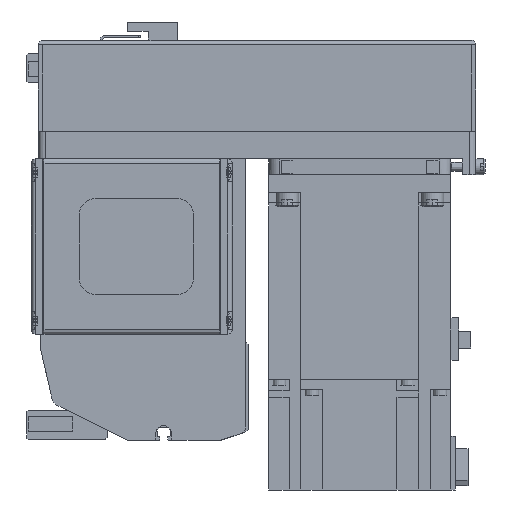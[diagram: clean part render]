
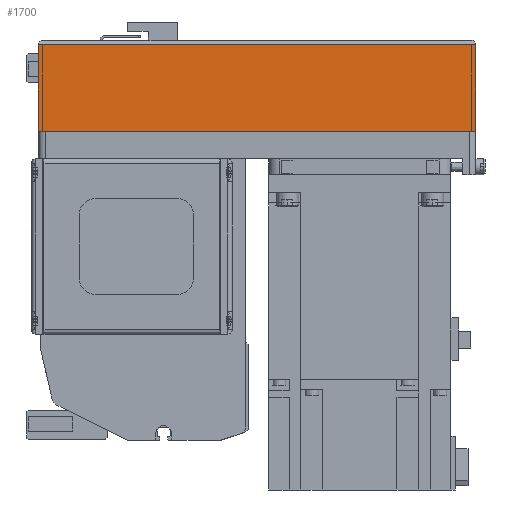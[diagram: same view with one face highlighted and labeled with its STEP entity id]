
A CAD part, left-side view. The second image highlights one B-rep face of the part: STEP entity #1700.
In plain terms, the highlighted planar face has unit normal (-1, 0, 0) as drawn and (0, -1, 0) by its records, which use the part's own axes.
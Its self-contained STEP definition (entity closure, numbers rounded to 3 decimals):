
#1700 = ADVANCED_FACE( '', ( #4299 ), #4300, .T. );
#4299 = FACE_OUTER_BOUND( '', #8041, .T. );
#4300 = PLANE( '', #8042 );
#8041 = EDGE_LOOP( '', ( #12921, #12922, #12923, #12924 ) );
#8042 = AXIS2_PLACEMENT_3D( '', #12925, #12926, #12927 );
#12921 = ORIENTED_EDGE( '', *, *, #22037, .F. );
#12922 = ORIENTED_EDGE( '', *, *, #21784, .F. );
#12923 = ORIENTED_EDGE( '', *, *, #22038, .T. );
#12924 = ORIENTED_EDGE( '', *, *, #22039, .T. );
#12925 = CARTESIAN_POINT( '', ( -192., -40., -12.1 ) );
#12926 = DIRECTION( '', ( 0., -1., 0. ) );
#12927 = DIRECTION( '', ( 0., 0., -1. ) );
#21784 = EDGE_CURVE( '', #26265, #26266, #26267, .T. );
#22037 = EDGE_CURVE( '', #26266, #26680, #26681, .T. );
#22038 = EDGE_CURVE( '', #26265, #26682, #26683, .T. );
#22039 = EDGE_CURVE( '', #26682, #26680, #26684, .T. );
#26265 = VERTEX_POINT( '', #32737 );
#26266 = VERTEX_POINT( '', #32738 );
#26267 = LINE( '', #32739, #32740 );
#26680 = VERTEX_POINT( '', #33395 );
#26681 = LINE( '', #33396, #33397 );
#26682 = VERTEX_POINT( '', #33398 );
#26683 = LINE( '', #33399, #33400 );
#26684 = LINE( '', #33401, #33402 );
#32737 = CARTESIAN_POINT( '', ( -192., -40., -12.1 ) );
#32738 = CARTESIAN_POINT( '', ( 0., -40., -12.1 ) );
#32739 = CARTESIAN_POINT( '', ( -192., -40., -12.1 ) );
#32740 = VECTOR( '', #40486, 1000. );
#33395 = CARTESIAN_POINT( '', ( 0., -40., -50. ) );
#33396 = CARTESIAN_POINT( '', ( 0., -40., -12.1 ) );
#33397 = VECTOR( '', #40778, 1000. );
#33398 = CARTESIAN_POINT( '', ( -192., -40., -50. ) );
#33399 = CARTESIAN_POINT( '', ( -192., -40., -12.1 ) );
#33400 = VECTOR( '', #40779, 1000. );
#33401 = CARTESIAN_POINT( '', ( -192., -40., -50. ) );
#33402 = VECTOR( '', #40780, 1000. );
#40486 = DIRECTION( '', ( 1., 0., 0. ) );
#40778 = DIRECTION( '', ( 0., 0., -1. ) );
#40779 = DIRECTION( '', ( 0., 0., -1. ) );
#40780 = DIRECTION( '', ( 1., 0., 0. ) );
